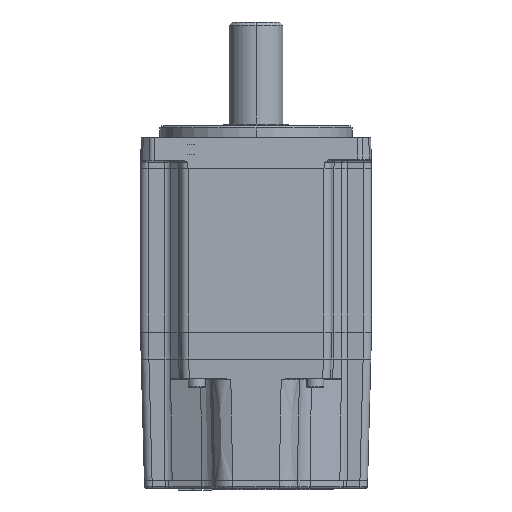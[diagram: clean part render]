
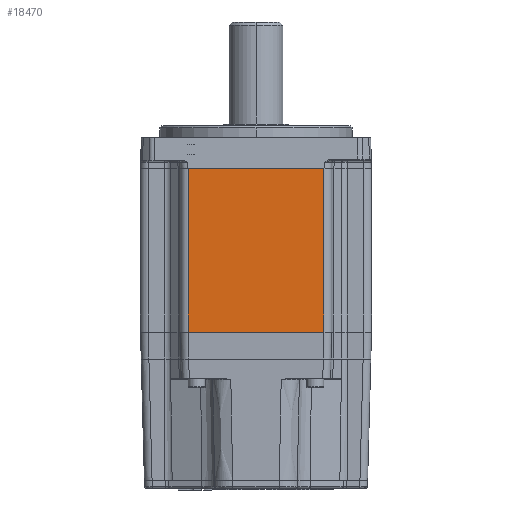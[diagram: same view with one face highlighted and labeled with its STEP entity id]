
A CAD part, front view. The second image highlights one B-rep face of the part: STEP entity #18470.
In plain terms, the highlighted planar face has unit normal (0, -1, 0).
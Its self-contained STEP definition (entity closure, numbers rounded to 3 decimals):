
#1024 = DIRECTION ( 'NONE',  ( 1., 0., 0. ) ) ;
#1503 = VECTOR ( 'NONE', #46040, 1000. ) ;
#1975 = CARTESIAN_POINT ( 'NONE',  ( 0., -30., 34.347 ) ) ;
#2428 = EDGE_CURVE ( 'NONE', #43208, #11756, #31118, .T. ) ;
#2604 = AXIS2_PLACEMENT_3D ( 'NONE', #1975, #49919, #41026 ) ;
#4728 = CARTESIAN_POINT ( 'NONE',  ( -17.65, -30., 34.347 ) ) ;
#5089 = DIRECTION ( 'NONE',  ( 0., 0., -1. ) ) ;
#8980 = LINE ( 'NONE', #16353, #1503 ) ;
#10427 = VERTEX_POINT ( 'NONE', #32505 ) ;
#11756 = VERTEX_POINT ( 'NONE', #54863 ) ;
#16353 = CARTESIAN_POINT ( 'NONE',  ( 0., -30., 34.347 ) ) ;
#17257 = DIRECTION ( 'NONE',  ( 0., 0., 1. ) ) ;
#18470 = ADVANCED_FACE ( 'NONE', ( #21966 ), #32159, .F. ) ;
#21591 = VECTOR ( 'NONE', #5089, 1000. ) ;
#21966 = FACE_OUTER_BOUND ( 'NONE', #34112, .T. ) ;
#27991 = VECTOR ( 'NONE', #17257, 1000. ) ;
#30660 = CARTESIAN_POINT ( 'NONE',  ( 0., -30., -8.153 ) ) ;
#31118 = LINE ( 'NONE', #4728, #21591 ) ;
#31649 = ORIENTED_EDGE ( 'NONE', *, *, #32980, .F. ) ;
#32159 = PLANE ( 'NONE',  #2604 ) ;
#32505 = CARTESIAN_POINT ( 'NONE',  ( 17.65, -30., 34.347 ) ) ;
#32980 = EDGE_CURVE ( 'NONE', #43208, #10427, #8980, .T. ) ;
#33655 = EDGE_CURVE ( 'NONE', #11756, #41481, #44916, .T. ) ;
#34112 = EDGE_LOOP ( 'NONE', ( #38412, #52830, #31649, #40982 ) ) ;
#37598 = CARTESIAN_POINT ( 'NONE',  ( 17.65, -30., -8.153 ) ) ;
#38412 = ORIENTED_EDGE ( 'NONE', *, *, #33655, .T. ) ;
#39420 = EDGE_CURVE ( 'NONE', #41481, #10427, #55731, .T. ) ;
#40982 = ORIENTED_EDGE ( 'NONE', *, *, #2428, .T. ) ;
#41026 = DIRECTION ( 'NONE',  ( 0., 0., 1. ) ) ;
#41481 = VERTEX_POINT ( 'NONE', #37598 ) ;
#42148 = VECTOR ( 'NONE', #1024, 1000. ) ;
#42153 = CARTESIAN_POINT ( 'NONE',  ( -17.65, -30., 34.347 ) ) ;
#42599 = CARTESIAN_POINT ( 'NONE',  ( 17.65, -30., 34.347 ) ) ;
#43208 = VERTEX_POINT ( 'NONE', #42153 ) ;
#44916 = LINE ( 'NONE', #30660, #42148 ) ;
#46040 = DIRECTION ( 'NONE',  ( 1., 0., 0. ) ) ;
#49919 = DIRECTION ( 'NONE',  ( 0., 1., 0. ) ) ;
#52830 = ORIENTED_EDGE ( 'NONE', *, *, #39420, .T. ) ;
#54863 = CARTESIAN_POINT ( 'NONE',  ( -17.65, -30., -8.153 ) ) ;
#55731 = LINE ( 'NONE', #42599, #27991 ) ;
